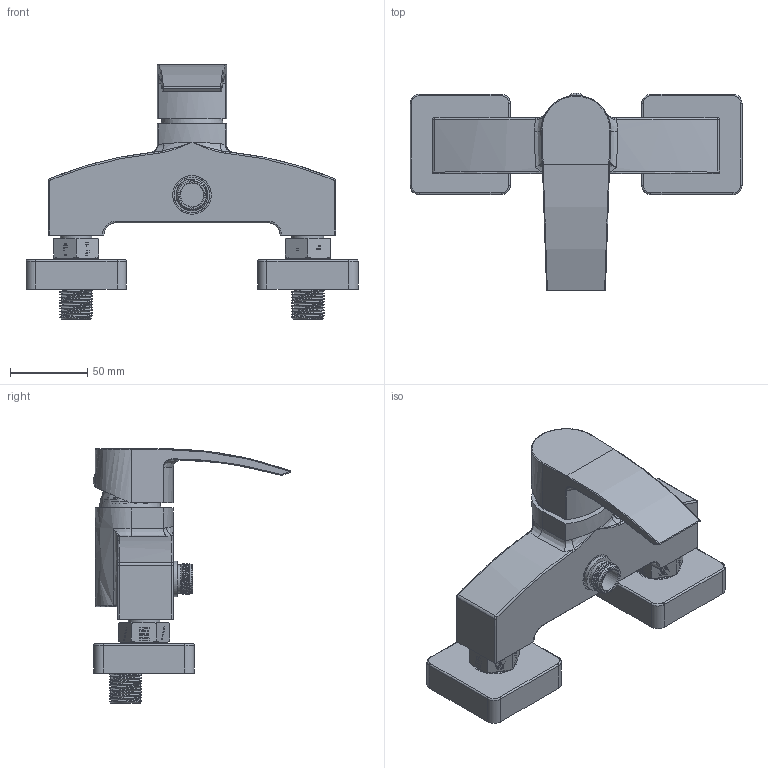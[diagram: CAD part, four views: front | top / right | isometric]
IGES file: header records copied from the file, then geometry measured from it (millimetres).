
Global section: file name: cfce328f-1135-4cfb-9827-142f96bfe2a7.zip; native system: unknown; preprocessor: unknown; author: unknown; organization: unknown; date: 20191210.084803; units: millimetre
Bounding box: 215 x 127.99 x 164.8 mm (x, y, z)
Volume: 431244 mm3; surface area: 132314.9 mm2
Topology: 18 solids, 18 shells, 514 faces, 1621 edges, 1160 vertices
Faces by surface type: bspline 514
